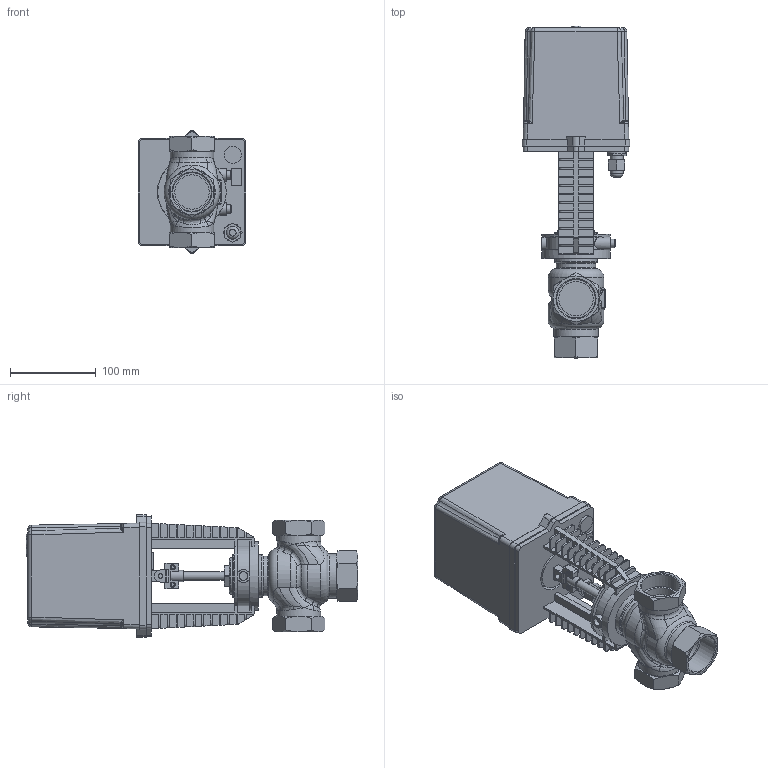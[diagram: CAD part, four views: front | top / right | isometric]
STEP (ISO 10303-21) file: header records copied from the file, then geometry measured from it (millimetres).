
FILE_DESCRIPTION(/* description */ ('D230-11267','CAx-IF Rec.Pracs.---Representation and Presentation of Product Manufacturing Information (PMI)---4.0---2014-10-13'),/* implementation_level */ '2;1');
FILE_NAME(/* name */ '',/* time_stamp */ '2026-04-27T12:36:54+03:00',/* author */ ('DN.RU'),/* organization */ ('DN.RU'),/* preprocessor_version */ 'ST-DEVELOPER v20',/* originating_system */ 'Autodesk Inventor 2025',/* authorisation */ '');
FILE_SCHEMA (('AP242_MANAGED_MODEL_BASED_3D_ENGINEERING_MIM_LF { 1 0 10303 442 1 1 4 }'));
Length unit declared in the file: millimetre
Products named in the file (1): VRg3M/S-31M-PED-T
Bounding box: 125 x 387 x 142.97 mm (x, y, z)
Volume: 2661991.2 mm3; surface area: 239267.8 mm2
Topology: 1 solids, 3 shells, 1097 faces, 2941 edges, 1886 vertices
Faces by surface type: plane 603, bspline 187, cylinder 180, cone 76, torus 37, sphere 14
Full cylindrical faces by diameter (mm): 5 x4, 6 x2, 8 x3, 8.5 x2, 10 x6, 13 x1, 15 x4, 18 x1, 20 x1, 40 x3, 42 x1, 44 x1, 44.85 x3, 45 x1, 46 x1, 50 x3, 50.85 x2, 52 x1, 55 x2, 80 x1
Entity records: 39546 total; most frequent: CARTESIAN_POINT 12128, ORIENTED_EDGE 5844, DIRECTION 4893, EDGE_CURVE 2922, VERTEX_POINT 1886, LINE 1715, VECTOR 1715, AXIS2_PLACEMENT_3D 1589
